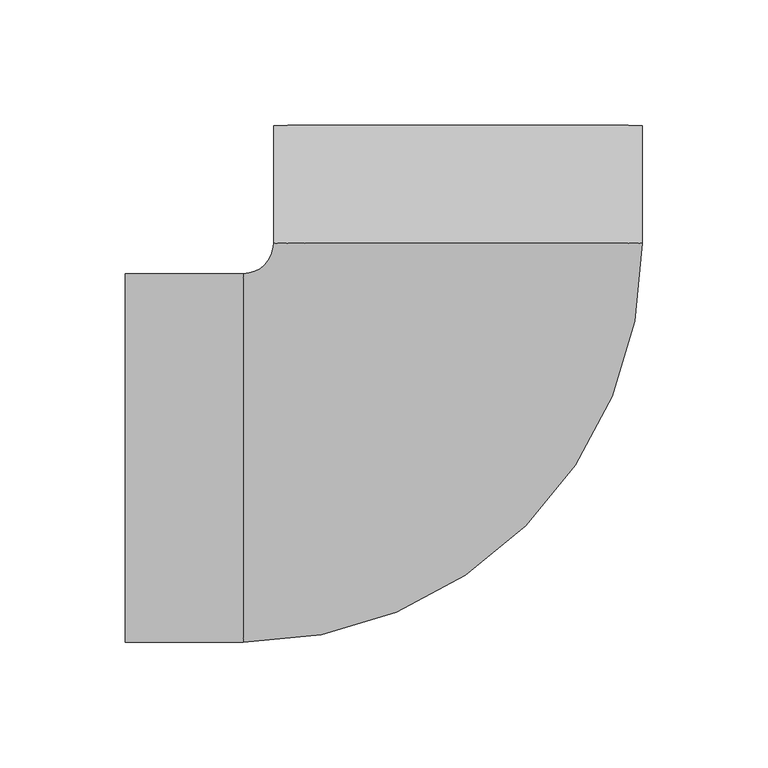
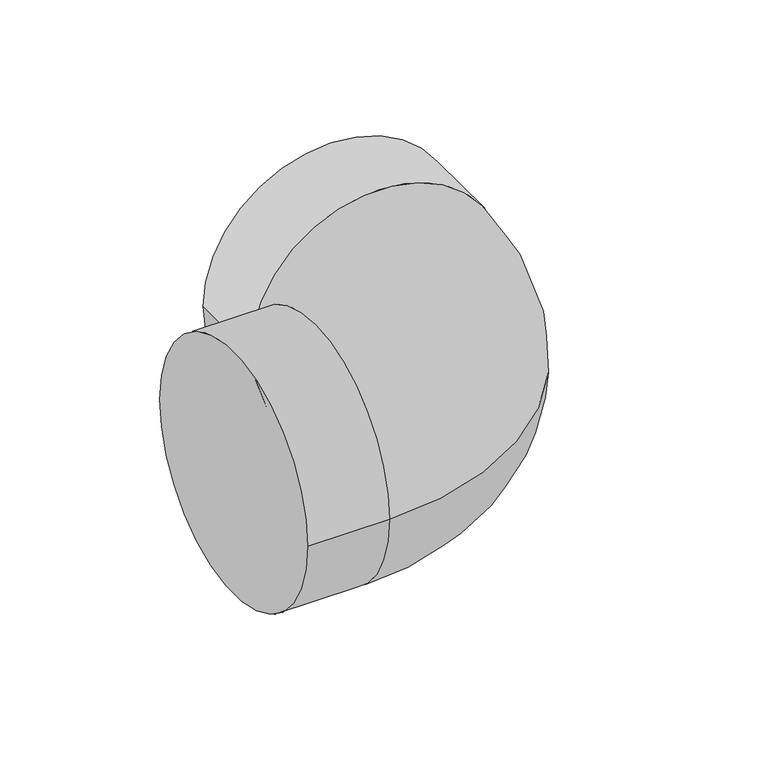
"""IFC4 building model written with IfcOpenShell, lengths in millimetres: pipe fitting geometry, PipeFitting_HTA_CPVC_Elbows : 125mm x 90°."""

from ifc_helpers import new_model, si_unit, point, frame, origin, place, context, project, spatial, circle_curve, ellipse_curve, trimmed, source, transform, mapped, element, save
from ifc_brep_helpers import plane_surface, cylinder_surface, revolved_surface, advanced_brep


def pipe_fitting_993415ac(model_context):
    return source(origin(), model_context, "Body", "AdvancedBrep", [
        advanced_brep(
        [(-132.5, -73.5, 0.0), (-132.5, 73.5, 0.0), (-85.5, -73.5, 0.0), (-85.5, 73.5, 0.0), (-73.5, 85.5, 0.0), (73.5, 85.5, 0.0), (73.5, 132.5, 0.0), (-73.5, 132.5, 0.0)],
        [
            (0, 1, circle_curve(frame((-132.5, 0.0, 0.0), z_axis=(-1.0, 0.0, 0.0), x_axis=(0.0, 1.0, 0.0)), 73.5)),
            (1, 0, circle_curve(frame((-132.5, 0.0, 0.0), z_axis=(-1.0, 0.0, 0.0), x_axis=(0.0, 1.0, 0.0)), 73.5)),
            (0, 2),
            (2, 3, circle_curve(frame((-85.5, 0.0, 0.0), z_axis=(-1.0, 0.0, 0.0), x_axis=(0.0, 1.0, 0.0)), 73.5)),
            (3, 1),
            (3, 2, circle_curve(frame((-85.5, 0.0, 0.0), z_axis=(-1.0, 0.0, 0.0), x_axis=(0.0, 1.0, 0.0)), 73.5)),
            (4, 3, circle_curve(frame((-85.5, 85.5, 0.0), z_axis=(0.0, 0.0, -1.0), x_axis=(0.0, -1.0, 0.0)), 12.0)),
            (2, 5, circle_curve(frame((-85.5, 85.5, 0.0), z_axis=(0.0, 0.0, 1.0), x_axis=(0.0, -1.0, 0.0)), 159.0)),
            (5, 4, circle_curve(frame((0.0, 85.5, 0.0), z_axis=(0.0, -1.0, 0.0), x_axis=(-1.0, 0.0, 0.0)), 73.5)),
            (4, 5, circle_curve(frame((0.0, 85.5, 0.0), z_axis=(0.0, -1.0, 0.0), x_axis=(-1.0, 0.0, 0.0)), 73.5)),
            (6, 7, circle_curve(frame((0.0, 132.5, 0.0), z_axis=(0.0, 1.0, 0.0), x_axis=(-1.0, 0.0, 0.0)), 73.5)),
            (7, 6, circle_curve(frame((0.0, 132.5, 0.0), z_axis=(0.0, 1.0, 0.0), x_axis=(-1.0, 0.0, 0.0)), 73.5)),
            (5, 6),
            (7, 4),
        ],
        [
            plane_surface(frame((-132.5, 0.0, 0.0), z_axis=(-1.0, 0.0, 0.0), x_axis=(0.0, 0.0, 1.0))),
            cylinder_surface(frame((-132.5, 0.0, 0.0), z_axis=(-1.0, 0.0, 0.0), x_axis=(0.0, 1.0, 0.0)), 73.5),
            revolved_surface(trimmed(ellipse_curve(frame((-85.5, 0.0, 0.0), z_axis=(-1.0, 0.0, 0.0), x_axis=(0.0, 1.0, 0.0)), 73.5, 73.5), [point((-85.5, -73.5, 0.0))], [point((-85.5, 73.5, 0.0))], True, "CARTESIAN"), (-85.5, 85.5, 0.0), (0.0, 0.0, 1.0)),
            revolved_surface(trimmed(ellipse_curve(frame((-85.5, 0.0, 0.0), z_axis=(-1.0, 0.0, 0.0), x_axis=(0.0, 1.0, 0.0)), 73.5, 73.5), [point((-85.5, 73.5, 0.0))], [point((-85.5, -73.5, 0.0))], True, "CARTESIAN"), (-85.5, 85.5, 0.0), (0.0, 0.0, 1.0)),
            plane_surface(frame((0.0, 132.5, 0.0), z_axis=(0.0, 1.0, 0.0), x_axis=(0.0, 0.0, 1.0))),
            cylinder_surface(frame((0.0, 85.5, 0.0), z_axis=(0.0, -1.0, 0.0), x_axis=(-1.0, 0.0, 0.0)), 73.5),
        ],
        [
            (0, [[1, 2]]),
            (1, [[-1, 3, 4, 5]]),
            (1, [[-2, -5, 6, -3]]),
            (2, [[7, -4, 8, 9]]),
            (3, [[-8, -6, -7, 10]]),
            (4, [[11, 12]]),
            (5, [[-9, 13, -12, 14]]),
            (5, [[-10, -14, -11, -13]]),
        ],
    ),
    ])


if __name__ == "__main__":
    model = new_model("IFC4")
    model_context = context("Model", 3, world=origin())
    ifc_project = project(units=[si_unit("LENGTHUNIT", "METRE", prefix="MILLI")], contexts=[model_context])
    site = spatial("IfcSite", under=ifc_project)
    building = spatial("IfcBuilding", under=site)
    placement = place(None, origin())
    pipe_fitting_shape = pipe_fitting_993415ac(model_context)
    element("IfcPipeFitting", 1, ObjectType="PipeFitting_HTA_CPVC_Elbows : 125mm x 90°", at=placement, inside=building, context=model_context, shape_type="MappedRepresentation", body=[
        mapped(pipe_fitting_shape, transform((0.0, 0.0, 0.0), x_axis=(1.0, 0.0, 0.0), y_axis=(0.0, 1.0, 0.0), z_axis=(0.0, 0.0, 1.0))),
    ])
    save(model, "model.ifc")
